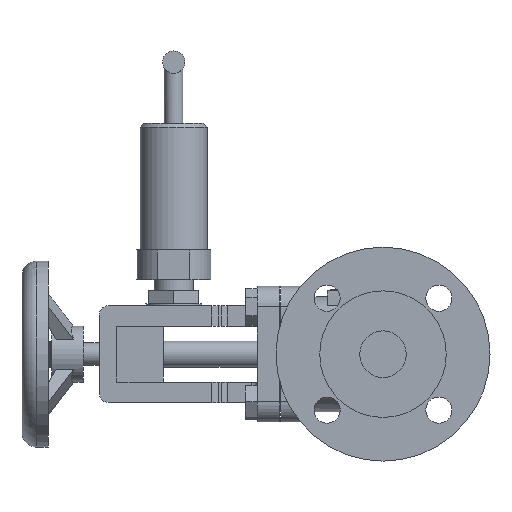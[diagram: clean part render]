
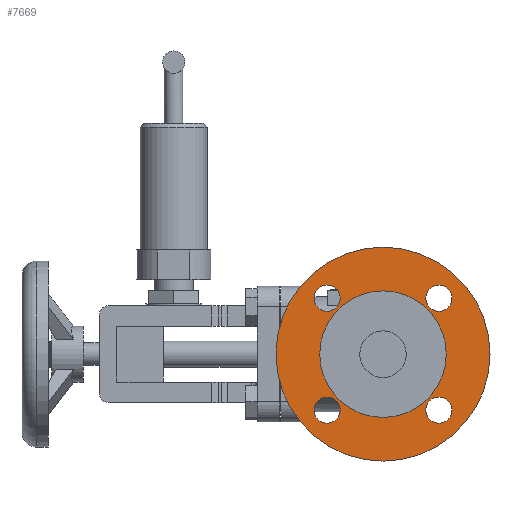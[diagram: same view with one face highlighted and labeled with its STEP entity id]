
A CAD part, left-side view. The second image highlights one B-rep face of the part: STEP entity #7669.
In plain terms, the highlighted planar face has unit normal (-1, 0, 0).
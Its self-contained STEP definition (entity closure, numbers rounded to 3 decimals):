
#294=FACE_BOUND('',#1448,.T.);
#295=FACE_BOUND('',#1449,.T.);
#296=FACE_BOUND('',#1450,.T.);
#297=FACE_BOUND('',#1451,.T.);
#298=FACE_BOUND('',#1452,.T.);
#558=PLANE('',#8190);
#1014=FACE_OUTER_BOUND('',#1447,.T.);
#1447=EDGE_LOOP('',(#6812));
#1448=EDGE_LOOP('',(#6813));
#1449=EDGE_LOOP('',(#6814));
#1450=EDGE_LOOP('',(#6815));
#1451=EDGE_LOOP('',(#6816));
#1452=EDGE_LOOP('',(#6817));
#3045=CIRCLE('',#8121,57.5);
#3048=CIRCLE('',#8125,7.);
#3050=CIRCLE('',#8128,7.);
#3052=CIRCLE('',#8131,7.);
#3054=CIRCLE('',#8134,7.);
#3055=CIRCLE('',#8136,34.);
#3707=VERTEX_POINT('',#13107);
#3710=VERTEX_POINT('',#13115);
#3712=VERTEX_POINT('',#13121);
#3714=VERTEX_POINT('',#13127);
#3716=VERTEX_POINT('',#13133);
#3717=VERTEX_POINT('',#13137);
#4703=EDGE_CURVE('',#3707,#3707,#3045,.T.);
#4708=EDGE_CURVE('',#3710,#3710,#3048,.T.);
#4711=EDGE_CURVE('',#3712,#3712,#3050,.T.);
#4714=EDGE_CURVE('',#3714,#3714,#3052,.T.);
#4717=EDGE_CURVE('',#3716,#3716,#3054,.T.);
#4718=EDGE_CURVE('',#3717,#3717,#3055,.T.);
#6812=ORIENTED_EDGE('',*,*,#4703,.F.);
#6813=ORIENTED_EDGE('',*,*,#4711,.F.);
#6814=ORIENTED_EDGE('',*,*,#4714,.F.);
#6815=ORIENTED_EDGE('',*,*,#4717,.F.);
#6816=ORIENTED_EDGE('',*,*,#4708,.F.);
#6817=ORIENTED_EDGE('',*,*,#4718,.F.);
#7669=ADVANCED_FACE('',(#1014,#294,#295,#296,#297,#298),#558,.F.);
#8121=AXIS2_PLACEMENT_3D('',#13108,#9679,#9680);
#8125=AXIS2_PLACEMENT_3D('',#13117,#9689,#9690);
#8128=AXIS2_PLACEMENT_3D('',#13123,#9696,#9697);
#8131=AXIS2_PLACEMENT_3D('',#13129,#9703,#9704);
#8134=AXIS2_PLACEMENT_3D('',#13135,#9710,#9711);
#8136=AXIS2_PLACEMENT_3D('',#13138,#9714,#9715);
#8190=AXIS2_PLACEMENT_3D('',#13288,#9883,#9884);
#9679=DIRECTION('center_axis',(1.,0.,0.));
#9680=DIRECTION('ref_axis',(0.,0.,-1.));
#9689=DIRECTION('center_axis',(-1.,0.,0.));
#9690=DIRECTION('ref_axis',(0.,0.,-1.));
#9696=DIRECTION('center_axis',(-1.,0.,0.));
#9697=DIRECTION('ref_axis',(0.,0.,-1.));
#9703=DIRECTION('center_axis',(-1.,0.,0.));
#9704=DIRECTION('ref_axis',(0.,0.,-1.));
#9710=DIRECTION('center_axis',(-1.,0.,0.));
#9711=DIRECTION('ref_axis',(0.,0.,-1.));
#9714=DIRECTION('center_axis',(-1.,0.,0.));
#9715=DIRECTION('ref_axis',(0.,1.,0.));
#9883=DIRECTION('center_axis',(1.,0.,0.));
#9884=DIRECTION('ref_axis',(0.,0.,-1.));
#13107=CARTESIAN_POINT('',(-77.37,-59.27,4.75));
#13108=CARTESIAN_POINT('Origin',(-77.37,-59.27,-52.75));
#13115=CARTESIAN_POINT('',(-77.37,-29.218,-75.802));
#13117=CARTESIAN_POINT('Origin',(-77.37,-29.218,-82.802));
#13121=CARTESIAN_POINT('',(-77.37,-89.322,-75.802));
#13123=CARTESIAN_POINT('Origin',(-77.37,-89.322,-82.802));
#13127=CARTESIAN_POINT('',(-77.37,-29.218,-15.698));
#13129=CARTESIAN_POINT('Origin',(-77.37,-29.218,-22.698));
#13133=CARTESIAN_POINT('',(-77.37,-89.322,-15.698));
#13135=CARTESIAN_POINT('Origin',(-77.37,-89.322,-22.698));
#13137=CARTESIAN_POINT('',(-77.37,-93.27,-52.75));
#13138=CARTESIAN_POINT('Origin',(-77.37,-59.27,-52.75));
#13288=CARTESIAN_POINT('Origin',(-77.37,-13.52,-52.75));
